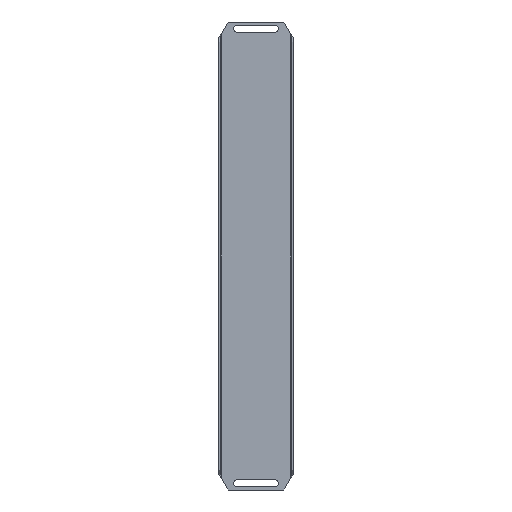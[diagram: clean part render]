
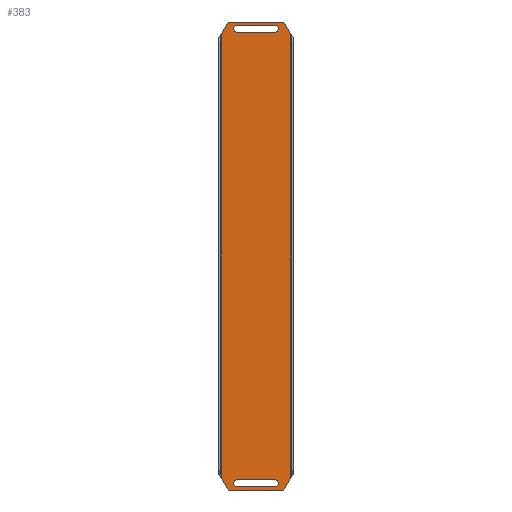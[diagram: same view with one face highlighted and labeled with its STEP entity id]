
A CAD part, front view. The second image highlights one B-rep face of the part: STEP entity #383.
In plain terms, the highlighted planar face has unit normal (0, -1, 0).
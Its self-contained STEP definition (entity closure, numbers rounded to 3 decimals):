
#3 = VECTOR ( 'NONE', #359, 1000. ) ;
#8 = ORIENTED_EDGE ( 'NONE', *, *, #927, .T. ) ;
#10 = EDGE_CURVE ( 'NONE', #307, #1187, #687, .T. ) ;
#42 = ORIENTED_EDGE ( 'NONE', *, *, #752, .T. ) ;
#75 = ORIENTED_EDGE ( 'NONE', *, *, #10, .F. ) ;
#82 = DIRECTION ( 'NONE',  ( 1., 0., 0. ) ) ;
#88 = VECTOR ( 'NONE', #93, 1000. ) ;
#93 = DIRECTION ( 'NONE',  ( 0.507, 0., 0.862 ) ) ;
#109 = LINE ( 'NONE', #140, #1133 ) ;
#112 = FACE_BOUND ( 'NONE', #714, .T. ) ;
#124 = DIRECTION ( 'NONE',  ( 0., 0., 1. ) ) ;
#136 = VERTEX_POINT ( 'NONE', #1216 ) ;
#140 = CARTESIAN_POINT ( 'NONE',  ( -15.55, -1.2, -207.5 ) ) ;
#142 = CARTESIAN_POINT ( 'NONE',  ( -29.9, -1.2, 199.781 ) ) ;
#143 = EDGE_CURVE ( 'NONE', #807, #136, #831, .T. ) ;
#144 = DIRECTION ( 'NONE',  ( -1., 0., 0. ) ) ;
#155 = CARTESIAN_POINT ( 'NONE',  ( -29.9, -1.2, -199.781 ) ) ;
#183 = LINE ( 'NONE', #953, #392 ) ;
#195 = VERTEX_POINT ( 'NONE', #1232 ) ;
#232 = LINE ( 'NONE', #155, #847 ) ;
#240 = ORIENTED_EDGE ( 'NONE', *, *, #700, .F. ) ;
#249 = DIRECTION ( 'NONE',  ( 0., 0., 1. ) ) ;
#265 = CARTESIAN_POINT ( 'NONE',  ( 0., -1.2, 0. ) ) ;
#271 = CARTESIAN_POINT ( 'NONE',  ( -29.9, -1.2, -199.781 ) ) ;
#272 = LINE ( 'NONE', #518, #1238 ) ;
#282 = DIRECTION ( 'NONE',  ( 0., 0., 1. ) ) ;
#285 = CARTESIAN_POINT ( 'NONE',  ( -15.55, -1.2, 204.25 ) ) ;
#307 = VERTEX_POINT ( 'NONE', #1252 ) ;
#309 = CARTESIAN_POINT ( 'NONE',  ( 17.95, -1.2, 204.25 ) ) ;
#310 = EDGE_CURVE ( 'NONE', #1227, #608, #883, .T. ) ;
#324 = LINE ( 'NONE', #375, #811 ) ;
#342 = CARTESIAN_POINT ( 'NONE',  ( -23.745, -1.2, -210.25 ) ) ;
#356 = DIRECTION ( 'NONE',  ( 0., 1., 0. ) ) ;
#359 = DIRECTION ( 'NONE',  ( 0., 0., 1. ) ) ;
#371 = EDGE_CURVE ( 'NONE', #680, #579, #848, .T. ) ;
#372 = EDGE_LOOP ( 'NONE', ( #240, #395, #1093, #715, #588, #1253, #75, #425 ) ) ;
#375 = CARTESIAN_POINT ( 'NONE',  ( -15.55, -1.2, 207.5 ) ) ;
#381 = DIRECTION ( 'NONE',  ( 0., 1., 0. ) ) ;
#383 = ADVANCED_FACE ( 'NONE', ( #112, #586, #483 ), #771, .T. ) ;
#389 = VERTEX_POINT ( 'NONE', #458 ) ;
#392 = VECTOR ( 'NONE', #1055, 1000. ) ;
#395 = ORIENTED_EDGE ( 'NONE', *, *, #143, .T. ) ;
#400 = CARTESIAN_POINT ( 'NONE',  ( 32.3, -1.2, 199.781 ) ) ;
#407 = DIRECTION ( 'NONE',  ( 0., 1., 0. ) ) ;
#421 = AXIS2_PLACEMENT_3D ( 'NONE', #985, #803, #1109 ) ;
#425 = ORIENTED_EDGE ( 'NONE', *, *, #968, .T. ) ;
#451 = VECTOR ( 'NONE', #980, 1000. ) ;
#454 = EDGE_LOOP ( 'NONE', ( #624, #1044, #1078, #1075 ) ) ;
#458 = CARTESIAN_POINT ( 'NONE',  ( 17.95, -1.2, 207.5 ) ) ;
#483 = FACE_OUTER_BOUND ( 'NONE', #372, .T. ) ;
#499 = LINE ( 'NONE', #903, #1048 ) ;
#501 = AXIS2_PLACEMENT_3D ( 'NONE', #553, #356, #249 ) ;
#503 = ORIENTED_EDGE ( 'NONE', *, *, #310, .T. ) ;
#518 = CARTESIAN_POINT ( 'NONE',  ( -15.55, -1.2, 201. ) ) ;
#526 = CIRCLE ( 'NONE', #862, 3.25 ) ;
#529 = CARTESIAN_POINT ( 'NONE',  ( 17.95, -1.2, -201. ) ) ;
#550 = VECTOR ( 'NONE', #763, 1000. ) ;
#553 = CARTESIAN_POINT ( 'NONE',  ( -15.55, -1.2, -204.25 ) ) ;
#573 = CARTESIAN_POINT ( 'NONE',  ( 17.95, -1.2, 201. ) ) ;
#579 = VERTEX_POINT ( 'NONE', #342 ) ;
#586 = FACE_BOUND ( 'NONE', #454, .T. ) ;
#588 = ORIENTED_EDGE ( 'NONE', *, *, #371, .F. ) ;
#600 = VECTOR ( 'NONE', #925, 1000. ) ;
#608 = VERTEX_POINT ( 'NONE', #924 ) ;
#610 = LINE ( 'NONE', #681, #88 ) ;
#624 = ORIENTED_EDGE ( 'NONE', *, *, #890, .T. ) ;
#648 = EDGE_CURVE ( 'NONE', #711, #1103, #898, .T. ) ;
#671 = EDGE_CURVE ( 'NONE', #680, #1187, #610, .T. ) ;
#680 = VERTEX_POINT ( 'NONE', #908 ) ;
#681 = CARTESIAN_POINT ( 'NONE',  ( 32.3, -1.2, -199.781 ) ) ;
#687 = LINE ( 'NONE', #400, #1118 ) ;
#700 = EDGE_CURVE ( 'NONE', #807, #195, #499, .T. ) ;
#706 = EDGE_CURVE ( 'NONE', #1103, #837, #784, .T. ) ;
#711 = VERTEX_POINT ( 'NONE', #990 ) ;
#714 = EDGE_LOOP ( 'NONE', ( #503, #8, #42, #941 ) ) ;
#715 = ORIENTED_EDGE ( 'NONE', *, *, #1098, .T. ) ;
#752 = EDGE_CURVE ( 'NONE', #389, #1196, #526, .T. ) ;
#763 = DIRECTION ( 'NONE',  ( -1., 0., 0. ) ) ;
#771 = PLANE ( 'NONE',  #813 ) ;
#784 = CIRCLE ( 'NONE', #421, 3.25 ) ;
#788 = DIRECTION ( 'NONE',  ( 0., 0., -1. ) ) ;
#803 = DIRECTION ( 'NONE',  ( 0., 1., 0. ) ) ;
#807 = VERTEX_POINT ( 'NONE', #923 ) ;
#811 = VECTOR ( 'NONE', #82, 1000. ) ;
#813 = AXIS2_PLACEMENT_3D ( 'NONE', #265, #1167, #863 ) ;
#820 = DIRECTION ( 'NONE',  ( -1., 0., 0. ) ) ;
#831 = LINE ( 'NONE', #142, #600 ) ;
#837 = VERTEX_POINT ( 'NONE', #1228 ) ;
#840 = AXIS2_PLACEMENT_3D ( 'NONE', #285, #381, #282 ) ;
#845 = CARTESIAN_POINT ( 'NONE',  ( -15.55, -1.2, 201. ) ) ;
#847 = VECTOR ( 'NONE', #1122, 1000. ) ;
#848 = LINE ( 'NONE', #1255, #550 ) ;
#862 = AXIS2_PLACEMENT_3D ( 'NONE', #309, #407, #124 ) ;
#863 = DIRECTION ( 'NONE',  ( 0., 0., -1. ) ) ;
#883 = CIRCLE ( 'NONE', #840, 3.25 ) ;
#890 = EDGE_CURVE ( 'NONE', #1087, #711, #1217, .T. ) ;
#898 = LINE ( 'NONE', #1189, #451 ) ;
#903 = CARTESIAN_POINT ( 'NONE',  ( -29.9, -1.2, 210.25 ) ) ;
#908 = CARTESIAN_POINT ( 'NONE',  ( 26.145, -1.2, -210.25 ) ) ;
#923 = CARTESIAN_POINT ( 'NONE',  ( -23.745, -1.2, 210.25 ) ) ;
#924 = CARTESIAN_POINT ( 'NONE',  ( -15.55, -1.2, 207.5 ) ) ;
#925 = DIRECTION ( 'NONE',  ( -0.507, 0., -0.862 ) ) ;
#927 = EDGE_CURVE ( 'NONE', #608, #389, #324, .T. ) ;
#935 = CARTESIAN_POINT ( 'NONE',  ( -29.9, -1.2, -199.781 ) ) ;
#941 = ORIENTED_EDGE ( 'NONE', *, *, #1139, .T. ) ;
#953 = CARTESIAN_POINT ( 'NONE',  ( 32.3, -1.2, 199.781 ) ) ;
#966 = LINE ( 'NONE', #271, #3 ) ;
#968 = EDGE_CURVE ( 'NONE', #307, #195, #183, .T. ) ;
#980 = DIRECTION ( 'NONE',  ( 1., 0., 0. ) ) ;
#985 = CARTESIAN_POINT ( 'NONE',  ( 17.95, -1.2, -204.25 ) ) ;
#990 = CARTESIAN_POINT ( 'NONE',  ( -15.55, -1.2, -201. ) ) ;
#1044 = ORIENTED_EDGE ( 'NONE', *, *, #648, .T. ) ;
#1048 = VECTOR ( 'NONE', #1197, 1000. ) ;
#1055 = DIRECTION ( 'NONE',  ( -0.507, 0., 0.862 ) ) ;
#1075 = ORIENTED_EDGE ( 'NONE', *, *, #1107, .T. ) ;
#1078 = ORIENTED_EDGE ( 'NONE', *, *, #706, .T. ) ;
#1087 = VERTEX_POINT ( 'NONE', #1223 ) ;
#1093 = ORIENTED_EDGE ( 'NONE', *, *, #1213, .F. ) ;
#1098 = EDGE_CURVE ( 'NONE', #1244, #579, #232, .T. ) ;
#1103 = VERTEX_POINT ( 'NONE', #529 ) ;
#1107 = EDGE_CURVE ( 'NONE', #837, #1087, #109, .T. ) ;
#1109 = DIRECTION ( 'NONE',  ( 0., 0., 1. ) ) ;
#1118 = VECTOR ( 'NONE', #788, 1000. ) ;
#1122 = DIRECTION ( 'NONE',  ( 0.507, 0., -0.862 ) ) ;
#1133 = VECTOR ( 'NONE', #820, 1000. ) ;
#1139 = EDGE_CURVE ( 'NONE', #1196, #1227, #272, .T. ) ;
#1167 = DIRECTION ( 'NONE',  ( 0., -1., 0. ) ) ;
#1187 = VERTEX_POINT ( 'NONE', #1249 ) ;
#1189 = CARTESIAN_POINT ( 'NONE',  ( -15.55, -1.2, -201. ) ) ;
#1196 = VERTEX_POINT ( 'NONE', #573 ) ;
#1197 = DIRECTION ( 'NONE',  ( 1., 0., 0. ) ) ;
#1213 = EDGE_CURVE ( 'NONE', #1244, #136, #966, .T. ) ;
#1216 = CARTESIAN_POINT ( 'NONE',  ( -29.9, -1.2, 199.781 ) ) ;
#1217 = CIRCLE ( 'NONE', #501, 3.25 ) ;
#1223 = CARTESIAN_POINT ( 'NONE',  ( -15.55, -1.2, -207.5 ) ) ;
#1227 = VERTEX_POINT ( 'NONE', #845 ) ;
#1228 = CARTESIAN_POINT ( 'NONE',  ( 17.95, -1.2, -207.5 ) ) ;
#1232 = CARTESIAN_POINT ( 'NONE',  ( 26.145, -1.2, 210.25 ) ) ;
#1238 = VECTOR ( 'NONE', #144, 1000. ) ;
#1244 = VERTEX_POINT ( 'NONE', #935 ) ;
#1249 = CARTESIAN_POINT ( 'NONE',  ( 32.3, -1.2, -199.781 ) ) ;
#1252 = CARTESIAN_POINT ( 'NONE',  ( 32.3, -1.2, 199.781 ) ) ;
#1253 = ORIENTED_EDGE ( 'NONE', *, *, #671, .T. ) ;
#1255 = CARTESIAN_POINT ( 'NONE',  ( -29.9, -1.2, -210.25 ) ) ;
